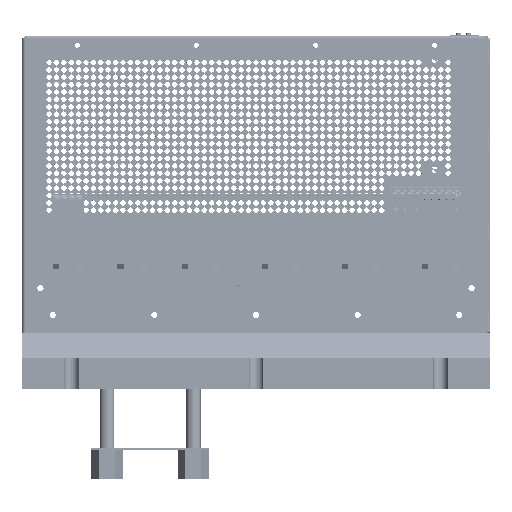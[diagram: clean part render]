
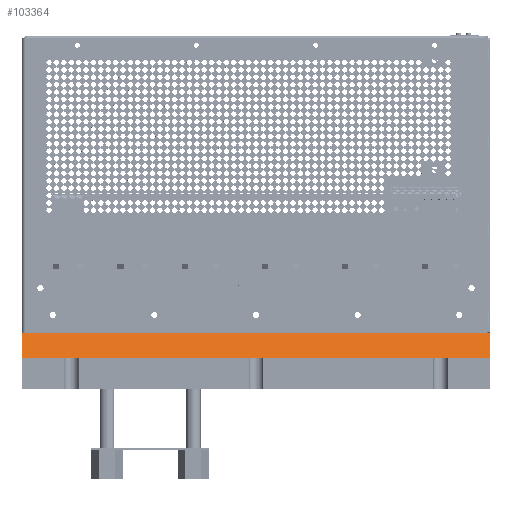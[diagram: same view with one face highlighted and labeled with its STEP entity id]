
A CAD part, front view. The second image highlights one B-rep face of the part: STEP entity #103364.
In plain terms, the highlighted planar face has unit normal (0, -0.734, 0.679).
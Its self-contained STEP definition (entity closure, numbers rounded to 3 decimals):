
#93728=PLANE('',#276372);
#103364=ADVANCED_FACE('',(#115159),#93728,.T.);
#115159=FACE_OUTER_BOUND('',#130745,.T.);
#130745=EDGE_LOOP('',(#207682,#207683,#207684,#207685));
#143406=LINE('',#421481,#158564);
#143454=LINE('',#421659,#158612);
#143466=LINE('',#421681,#158624);
#143602=LINE('',#422478,#158760);
#158564=VECTOR('',#299423,1.);
#158612=VECTOR('',#299573,1.);
#158624=VECTOR('',#299587,1.);
#158760=VECTOR('',#300857,1.);
#207682=ORIENTED_EDGE('',*,*,#260536,.F.);
#207683=ORIENTED_EDGE('',*,*,#260876,.T.);
#207684=ORIENTED_EDGE('',*,*,#260548,.F.);
#207685=ORIENTED_EDGE('',*,*,#260438,.F.);
#234757=VERTEX_POINT('',#421480);
#234758=VERTEX_POINT('',#421482);
#234836=VERTEX_POINT('',#421658);
#234846=VERTEX_POINT('',#421682);
#260438=EDGE_CURVE('',#234757,#234758,#143406,.T.);
#260536=EDGE_CURVE('',#234836,#234757,#143454,.T.);
#260548=EDGE_CURVE('',#234758,#234846,#143466,.T.);
#260876=EDGE_CURVE('',#234836,#234846,#143602,.T.);
#276372=AXIS2_PLACEMENT_3D('',#422669,#301062,#301063);
#299423=DIRECTION('',(1.,0.,0.));
#299573=DIRECTION('',(0.,0.679,0.734));
#299587=DIRECTION('',(0.,-0.679,-0.734));
#300857=DIRECTION('',(1.,0.,0.));
#301062=DIRECTION('',(0.,-0.734,0.679));
#301063=DIRECTION('',(0.,-0.679,-0.734));
#421480=CARTESIAN_POINT('',(-237.014,-388.471,10.));
#421481=CARTESIAN_POINT('',(-269.029,-388.471,10.));
#421482=CARTESIAN_POINT('',(142.986,-388.471,10.));
#421658=CARTESIAN_POINT('',(-237.014,-406.971,-10.));
#421659=CARTESIAN_POINT('',(-237.014,-406.971,-10.));
#421681=CARTESIAN_POINT('',(142.986,-406.971,-10.));
#421682=CARTESIAN_POINT('',(142.986,-406.971,-10.));
#422478=CARTESIAN_POINT('',(-269.029,-406.971,-10.));
#422669=CARTESIAN_POINT('',(-269.029,-406.971,-10.));
